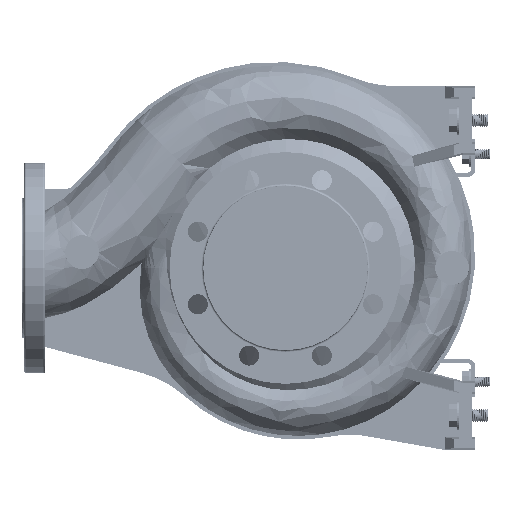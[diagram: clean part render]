
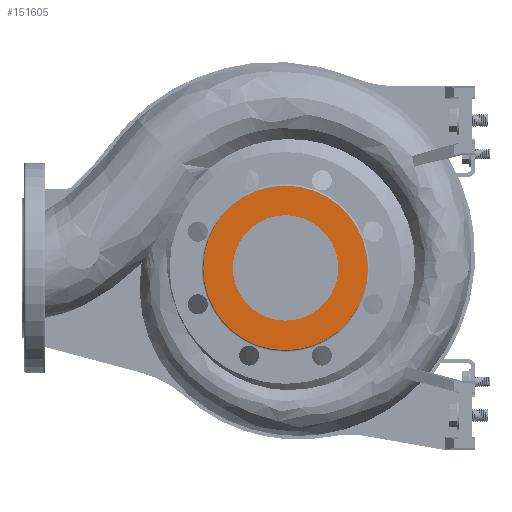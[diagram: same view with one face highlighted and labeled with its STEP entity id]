
A CAD part, left-side view. The second image highlights one B-rep face of the part: STEP entity #151605.
In plain terms, the highlighted planar face has unit normal (-1, 0, 0).
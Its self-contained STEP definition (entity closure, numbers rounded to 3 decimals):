
#9593 = EDGE_CURVE ( 'NONE', #149353, #117432, #64273, .T. ) ;
#16604 = CARTESIAN_POINT ( 'NONE',  ( -125., 0., 50. ) ) ;
#19885 = ORIENTED_EDGE ( 'NONE', *, *, #102775, .F. ) ;
#22960 = DIRECTION ( 'NONE',  ( -1., 0., 0. ) ) ;
#26831 = AXIS2_PLACEMENT_3D ( 'NONE', #181594, #37488, #180673 ) ;
#37474 = ORIENTED_EDGE ( 'NONE', *, *, #9593, .T. ) ;
#37488 = DIRECTION ( 'NONE',  ( 1., 0., 0. ) ) ;
#38356 = CARTESIAN_POINT ( 'NONE',  ( -125., 0., -78. ) ) ;
#40244 = AXIS2_PLACEMENT_3D ( 'NONE', #123796, #181221, #152040 ) ;
#43576 = AXIS2_PLACEMENT_3D ( 'NONE', #179614, #106216, #163668 ) ;
#46441 = CIRCLE ( 'NONE', #166758, 50. ) ;
#54446 = VERTEX_POINT ( 'NONE', #107013 ) ;
#63415 = AXIS2_PLACEMENT_3D ( 'NONE', #128094, #185509, #142219 ) ;
#64273 = CIRCLE ( 'NONE', #40244, 78. ) ;
#64813 = PLANE ( 'NONE',  #26831 ) ;
#75462 = EDGE_CURVE ( 'NONE', #117432, #149353, #76616, .T. ) ;
#76616 = CIRCLE ( 'NONE', #43576, 78. ) ;
#82264 = DIRECTION ( 'NONE',  ( 0., 0., 1. ) ) ;
#88888 = EDGE_LOOP ( 'NONE', ( #19885, #118667 ) ) ;
#102775 = EDGE_CURVE ( 'NONE', #119139, #54446, #144651, .T. ) ;
#106216 = DIRECTION ( 'NONE',  ( -1., 0., 0. ) ) ;
#107013 = CARTESIAN_POINT ( 'NONE',  ( -125., 0., -50. ) ) ;
#109632 = CARTESIAN_POINT ( 'NONE',  ( -125., 0., 0. ) ) ;
#117432 = VERTEX_POINT ( 'NONE', #120367 ) ;
#118667 = ORIENTED_EDGE ( 'NONE', *, *, #125957, .F. ) ;
#119139 = VERTEX_POINT ( 'NONE', #16604 ) ;
#120367 = CARTESIAN_POINT ( 'NONE',  ( -125., 0., 78. ) ) ;
#123796 = CARTESIAN_POINT ( 'NONE',  ( -125., 0., 0. ) ) ;
#125957 = EDGE_CURVE ( 'NONE', #54446, #119139, #46441, .T. ) ;
#128094 = CARTESIAN_POINT ( 'NONE',  ( -125., 0., 0. ) ) ;
#138289 = FACE_BOUND ( 'NONE', #88888, .T. ) ;
#140139 = FACE_OUTER_BOUND ( 'NONE', #160556, .T. ) ;
#142219 = DIRECTION ( 'NONE',  ( 0., 0., 1. ) ) ;
#144651 = CIRCLE ( 'NONE', #63415, 50. ) ;
#149353 = VERTEX_POINT ( 'NONE', #38356 ) ;
#151605 = ADVANCED_FACE ( 'NONE', ( #138289, #140139 ), #64813, .F. ) ;
#152040 = DIRECTION ( 'NONE',  ( 0., 0., 1. ) ) ;
#160556 = EDGE_LOOP ( 'NONE', ( #169778, #37474 ) ) ;
#163668 = DIRECTION ( 'NONE',  ( 0., 0., 1. ) ) ;
#166758 = AXIS2_PLACEMENT_3D ( 'NONE', #109632, #22960, #82264 ) ;
#169778 = ORIENTED_EDGE ( 'NONE', *, *, #75462, .T. ) ;
#179614 = CARTESIAN_POINT ( 'NONE',  ( -125., 0., 0. ) ) ;
#180673 = DIRECTION ( 'NONE',  ( 0., 0., -1. ) ) ;
#181221 = DIRECTION ( 'NONE',  ( -1., 0., 0. ) ) ;
#181594 = CARTESIAN_POINT ( 'NONE',  ( -125., 0., 0. ) ) ;
#185509 = DIRECTION ( 'NONE',  ( -1., 0., 0. ) ) ;
